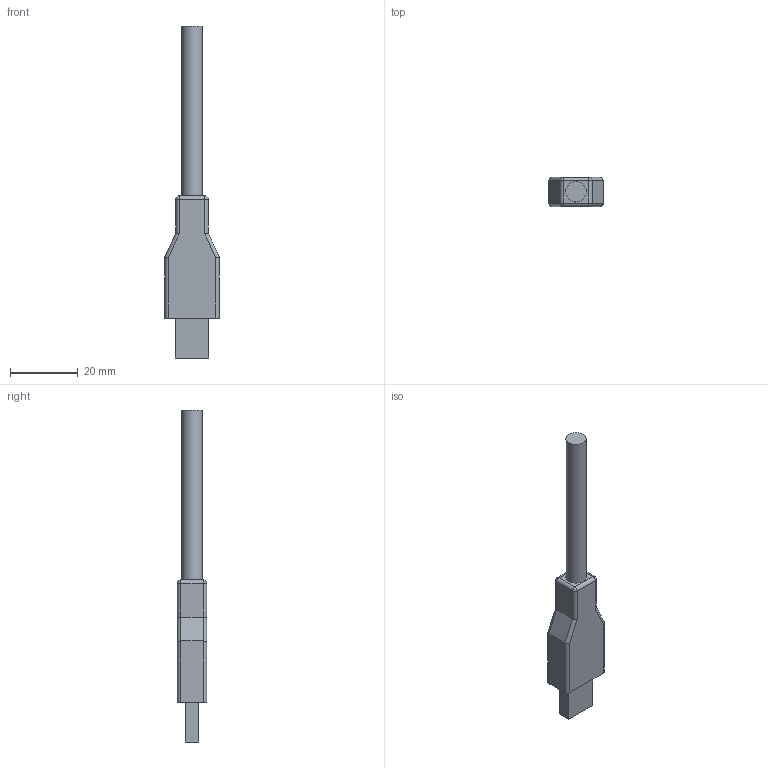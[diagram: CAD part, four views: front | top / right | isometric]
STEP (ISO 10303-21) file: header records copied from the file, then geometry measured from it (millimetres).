
FILE_DESCRIPTION(('FreeCAD Model'),'2;1');
FILE_NAME('Open CASCADE Shape Model','2026-06-05T14:05:48',(''),(''), 'Open CASCADE STEP processor 7.8','FreeCAD','Unknown');
FILE_SCHEMA(('AUTOMOTIVE_DESIGN { 1 0 10303 214 1 1 1 1 }'));
Length unit declared in the file: millimetre
Products named in the file (1): USB3-AMPAF-XXXX_M
Bounding box: 16 x 8.6 x 97.75 mm (x, y, z)
Volume: 5784.9 mm3; surface area: 3273.8 mm2
Topology: 1 solids, 1 shells, 44 faces, 101 edges, 58 vertices
Faces by surface type: plane 23, cylinder 17, sphere 4
Full cylindrical faces by diameter (mm): 6 x1
Entity records: 1209 total; most frequent: DIRECTION 213, CARTESIAN_POINT 200, ORIENTED_EDGE 194, EDGE_CURVE 97, AXIS2_PLACEMENT_3D 71, LINE 71, VECTOR 71, VERTEX_POINT 58
